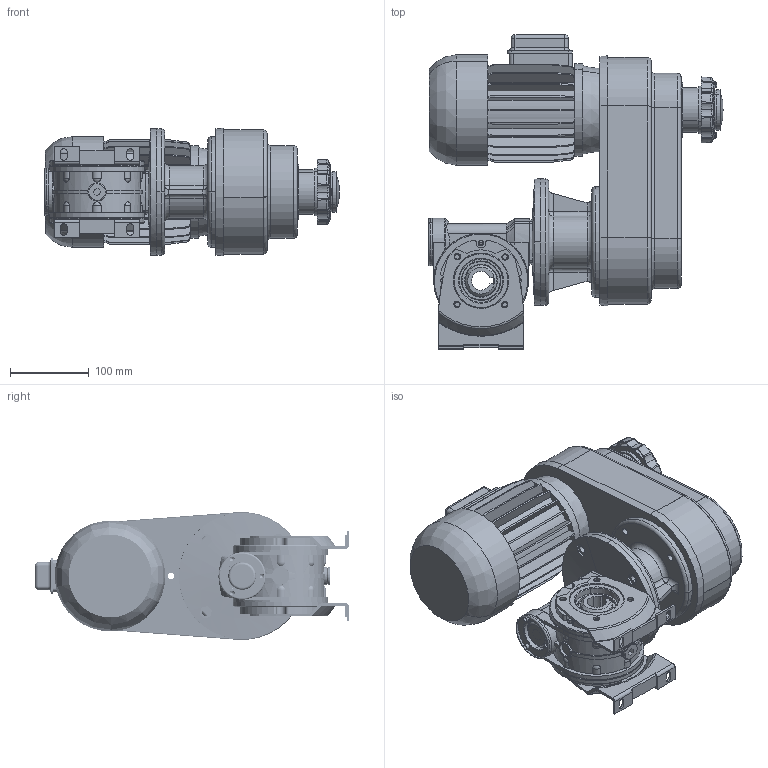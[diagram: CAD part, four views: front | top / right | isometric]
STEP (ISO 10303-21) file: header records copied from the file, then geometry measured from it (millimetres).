
FILE_DESCRIPTION(('CATIA V5 STEP Exchange'),'2;1');
FILE_NAME('D:\Trqvqil\chantier_snt\Step\CUV_05-50_Reel.stp','2007-12-10T08:10:46+00:00',('none'),('none'),'CATIA Version 5 Release 15 (IN-10)','CATIA V5 STEP AP203','none');
FILE_SCHEMA(('CONFIG_CONTROL_DESIGN'));
Products named in the file (11): Cuv_5_50_Reel; variateur_ass; plaque_moteur_ass; porte_vis; tchimass; porte_ecrou; poulie_recep-fix; poulie_recep-mob; Reducteur; Vis; RoueV43
Assembly tree (74 placements, depth 6):
  Cuv_5_50_Reel
    variateur_ass
      plaque_moteur_ass
        #68
        #5192
        #5367
        #6862
        porte_vis
          #8160
          #9224  x2
          #9935
          #11229
          #17578  x2
          tchimass
            #18333
            #18579
            #18683
        #18855
        #19700
        #26424
        #27002
      porte_ecrou
        #27711
        #28520
        #30319
        #30519
        #31700
        #31940
        #32181  x2
      poulie_recep-fix
        #32624
        #33583
        #34091
        #34785
      poulie_recep-mob
        #36005
        #36632  x2
      #36829
      #36852
      #37667
      #40929
    Reducteur
      #42721
      Vis
        #54149
        #55275
        #56872
      #58282
      #58915
      RoueV43
        #63277
        #64253  x2
        #65661  x2
      #67838  x2
      #69880
      #70049
      #70576
    #71422
    #77181  x2
    #78690
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Bounding box: 373.49 x 397.65 x 161.55 mm (x, y, z)
Volume: 5113704.1 mm3; surface area: 1376008.6 mm2
Topology: 142 solids, 143 shells, 3055 faces, 7943 edges, 4934 vertices
Faces by surface type: cylinder 1191, plane 793, torus 383, cone 342, sphere 192, bspline 89, revolution 65
Entity records: 83370 total; most frequent: CARTESIAN_POINT 23013, ORIENTED_EDGE 13446, DIRECTION 9599, EDGE_CURVE 6697, AXIS2_PLACEMENT_3D 5110, VERTEX_POINT 4222, CIRCLE 3295, EDGE_LOOP 3037
